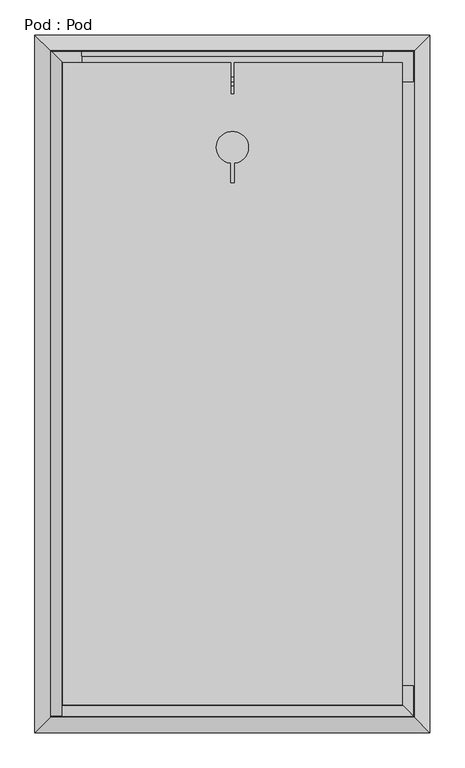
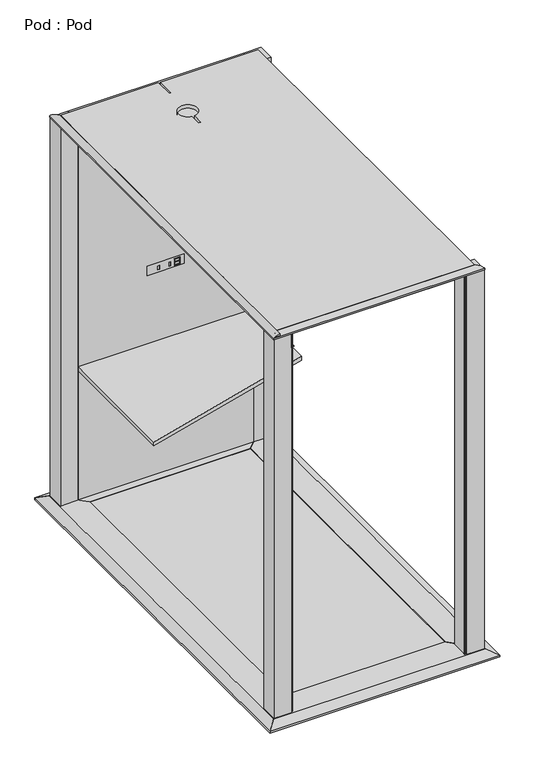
"""IFC4 building model written with IfcOpenShell, lengths in millimetres: furniture geometry, Pod : Pod."""

from ifc_helpers import new_model, si_unit, point, frame, frame_2d, origin, place, context, project, spatial, polyline, circle_curve, ellipse_curve, trimmed, segment, composite_curve, outline, extrude, faceted_brep, source, transform, mapped, element, save
from ifc_brep_helpers import plane_surface, cylinder_surface, advanced_brep


def pod_pod_d2ebc2de(model_context):
    return source(origin(), model_context, "Body", "SolidModel", [
        advanced_brep(
        [(-572.0, 1047.0, 2198.1), (-572.0, 1047.0, 2206.1749639), (-569.5, 1047.0, 2208.1), (-569.5, 1047.0, 2198.1), (-474.5, -1047.0, 2118.1), (-460.3233646, -1047.0, 2121.3729342), (-460.3233646, -1047.0, 2123.3754182), (-472.6956885, -1047.0, 2120.5190421), (-472.6956885, -1047.0, 2199.7084714), (-537.6956885, -1047.0, 2199.7084714), (-537.6956885, -1047.0, 2217.8303043), (-572.0, -1047.0, 2206.1749639), (-572.0, -1047.0, 2198.1), (-474.5, -1047.0, 2198.1), (-474.5, 952.0, 2118.1), (-460.3233646, 937.8233646, 2121.3729342), (-460.3233646, 937.8233646, 2123.3754182), (-472.6956885, 950.1956885, 2120.5190421), (-472.6956885, 950.1956885, 2199.7084714), (-537.6956885, 1015.1956885, 2199.7084714), (-537.6956885, 1015.1956885, 2217.8303043), (-474.5, 952.0, 2198.1)],
        [
            (0, 1),
            (1, 2, circle_curve(frame((-539.3317973, 1047.0, 2166.3353873), z_axis=(0.0, 1.0, 0.0), x_axis=(-1.0, 0.0, 0.0)), 51.5209019)),
            (2, 3),
            (3, 0),
            (4, 5),
            (5, 6),
            (6, 7),
            (7, 8),
            (8, 9),
            (9, 10),
            (10, 11, circle_curve(frame((-539.3317973, -1047.0, 2166.3353873), z_axis=(0.0, -1.0, 0.0), x_axis=(-1.0, 0.0, 0.0)), 51.5209019)),
            (11, 12),
            (12, 13),
            (13, 4),
            (4, 14),
            (14, 15),
            (15, 5),
            (15, 16),
            (16, 6),
            (16, 17),
            (17, 7),
            (17, 18),
            (18, 8),
            (18, 19),
            (19, 9),
            (19, 20),
            (20, 10),
            (20, 2, ellipse_curve(frame((-539.3317973, 1016.8317973, 2166.3353873), z_axis=(-0.7071067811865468, -0.7071067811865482, 0.0), x_axis=(-0.7071067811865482, 0.7071067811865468, 0.0)), 72.8615582, 51.5209019)),
            (1, 11),
            (0, 12),
            (3, 21),
            (21, 13),
            (21, 14),
        ],
        [
            plane_surface(frame((-474.5, 1047.0, 2198.1), z_axis=(0.0, 1.0, 0.0), x_axis=(0.0, 0.0, 1.0))),
            plane_surface(frame((-474.5, -1047.0, 2198.1), z_axis=(0.0, -1.0, 0.0), x_axis=(0.0, 0.0, -1.0))),
            plane_surface(frame((-460.3233646, 1047.0, 2121.3729342), z_axis=(0.22495105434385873, 0.0, -0.9743700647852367), x_axis=(0.0, -1.0, 0.0))),
            plane_surface(frame((-460.3233646, 1047.0, 2123.3754182), z_axis=(1.0, 0.0, 0.0), x_axis=(0.0, -1.0, 0.0))),
            plane_surface(frame((-472.6956885, 1047.0, 2120.5190421), z_axis=(-0.2249510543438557, 0.0, 0.9743700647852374), x_axis=(0.0, -1.0, 0.0))),
            plane_surface(frame((-472.6956885, 1047.0, 2199.7084714), z_axis=(1.0, 0.0, 0.0), x_axis=(0.0, -1.0, 0.0))),
            plane_surface(frame((-537.6956885, 1047.0, 2199.7084714), z_axis=(0.0, 0.0, 1.0), x_axis=(0.0, -1.0, 0.0))),
            plane_surface(frame((-537.6956885, 1047.0, 2217.8303043), z_axis=(1.0, 0.0, 0.0), x_axis=(0.0, -1.0, 0.0))),
            cylinder_surface(frame((-539.3317973, -1047.0, 2166.3353873), z_axis=(0.0, 1.0, 0.0), x_axis=(-1.0, 0.0, 0.0)), 51.5209019),
            plane_surface(frame((-572.0, 1047.0, 2198.1), z_axis=(-1.0, 0.0, 0.0), x_axis=(0.0, -1.0, 0.0))),
            plane_surface(frame((-474.5, 1047.0, 2198.1), z_axis=(0.0, 0.0, -1.0), x_axis=(0.0, -1.0, 0.0))),
            plane_surface(frame((-474.5, 1047.0, 2118.1), z_axis=(-1.0, 0.0, 0.0), x_axis=(0.0, -1.0, 0.0))),
            plane_surface(frame((-622.5, 1100.0, 2508.4304259), z_axis=(0.7071067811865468, 0.7071067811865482, 0.0), x_axis=(0.0, 0.0, -1.0))),
        ],
        [
            (0, [[1, 2, 3, 4]]),
            (1, [[5, 6, 7, 8, 9, 10, 11, 12, 13, 14]]),
            (2, [[-5, 15, 16, 17]]),
            (3, [[-6, -17, 18, 19]]),
            (4, [[-7, -19, 20, 21]]),
            (5, [[-8, -21, 22, 23]]),
            (6, [[-9, -23, 24, 25]]),
            (7, [[-10, -25, 26, 27]]),
            (8, [[-11, -27, 28, -2, 29]]),
            (9, [[-1, 30, -12, -29]]),
            (10, [[-13, -30, -4, 31, 32]]),
            (11, [[-14, -32, 33, -15]]),
            (12, [[-3, -28, -26, -24, -22, -20, -18, -16, -33, -31]]),
        ],
    ),
        extrude(outline(composite_curve([segment(polyline([(-569.5, -952.0), (-464.3524489, -952.0), (-464.3524489, -1039.3403358)]), True, "CONTINUOUS"), segment(trimmed(circle_curve(frame_2d((-467.0121131, -1039.3403358)), 2.6596642), [point((-464.3524489, -1039.3403358))], [point((-467.0121131, -1042.0))], False, "CARTESIAN"), True, "CONTINUOUS"), segment(polyline([(-467.0121131, -1042.0), (-472.0, -1042.0)]), True, "CONTINUOUS"), segment(trimmed(circle_curve(frame_2d((-472.0, -1044.5)), 2.5), [point((-472.0, -1042.0))], [point((-474.5, -1044.5))], True, "CARTESIAN"), True, "CONTINUOUS"), segment(polyline([(-474.5, -1044.5), (-474.5, -1047.0), (-569.5, -1047.0), (-569.5, -952.0)]), True, "CONTINUOUS")], self_intersect=False)), frame((0.0, 0.0, 33.0665228), z_axis=(0.0, 0.0, 1.0), x_axis=(1.0, 0.0, 0.0)), (0.0, 0.0, 1.0), 2165.0334772),
        extrude(outline(polyline([(472.6956885, -937.8233646), (-472.6956885, -937.8233646), (-472.6956885, 912.1918651), (-434.6918651, 912.1918651), (-460.3233646, 937.8233646), (472.6956885, 937.8233646), (472.6956885, -937.8233646)])), frame((0.0, 0.0, 2123.3754182), z_axis=(0.0, 0.0, 1.0), x_axis=(1.0, 0.0, 0.0)), (0.0, 0.0, 1.0), 12.7637513),
        extrude(outline(polyline([(26.6407935, 954.4349239), (16.6407935, 954.4349239), (16.6407935, 961.8081349), (26.6407935, 961.8081349), (26.6407935, 954.4349239)])), frame((0.0, 0.0, 1197.8694415), z_axis=(0.0, 0.0, 1.0), x_axis=(1.0, 0.0, 0.0)), (0.0, 0.0, 1.0), 22.4507355),
        extrude(outline(polyline([(-33.0619869, 954.4349239), (-43.0619869, 954.4349239), (-43.0619869, 961.8081349), (-33.0619869, 961.8081349), (-33.0619869, 954.4349239)])), frame((0.0, 0.0, 1197.8694415), z_axis=(0.0, 0.0, 1.0), x_axis=(1.0, 0.0, 0.0)), (0.0, 0.0, 1.0), 22.4507355),
        extrude(outline(polyline([(1232.507105, 75.4766828), (1232.507105, 45.4766828), (1192.507105, 45.4766828), (1192.507105, 75.4766828), (1232.507105, 75.4766828)]), holes=[polyline([(1211.3878155, 72.7906471), (1196.3878155, 72.7906471), (1196.3878155, 48.3542366), (1211.3878155, 48.3542366), (1211.3878155, 72.7906471)]), polyline([(1214.5141099, 72.7906471), (1214.5141099, 48.3899353), (1229.168615, 48.3899353), (1229.168615, 72.7906471), (1214.5141099, 72.7906471)])]), frame((0.0, 949.5162003, 0.0), z_axis=(0.0, 1.0, 0.0), x_axis=(0.0, 0.0, 1.0)), (0.0, 0.0, 1.0), 2.4837997),
        extrude(outline(polyline([(1239.555297, -100.0), (1185.555297, -100.0), (1185.555297, 100.0), (1239.555297, 100.0), (1239.555297, -100.0)]), holes=[polyline([(1197.8694415, 26.6407935), (1197.8694415, 16.6407935), (1220.320177, 16.6407935), (1220.320177, 26.6407935), (1197.8694415, 26.6407935)]), polyline([(1197.8694415, -33.0619869), (1197.8694415, -43.0619869), (1220.320177, -43.0619869), (1220.320177, -33.0619869), (1197.8694415, -33.0619869)])]), frame((0.0, 952.0, 0.0), z_axis=(0.0, 1.0, 0.0), x_axis=(0.0, 0.0, 1.0)), (0.0, 0.0, 1.0), 15.0),
        extrude(outline(polyline([(2198.1, -474.5), (35.555297, -474.5), (35.555297, 474.5), (2198.1, 474.5), (2198.1, -474.5)]), holes=[polyline([(1185.555297, 100.0), (1185.555297, -100.0), (1239.555297, -100.0), (1239.555297, 100.0), (1185.555297, 100.0)])]), frame((0.0, 952.0, 0.0), z_axis=(0.0, 1.0, 0.0), x_axis=(0.0, 0.0, 1.0)), (0.0, 0.0, 1.0), 15.0),
        extrude(outline(polyline([(474.5, 952.0), (474.5, 502.0), (-474.5, 242.0), (-474.5, 952.0), (0.0, 952.0), (474.5, 952.0)])), frame((0.0, 0.0, 774.2510923), z_axis=(0.0, 0.0, 1.0), x_axis=(1.0, 0.0, 0.0)), (0.0, 0.0, 1.0), 22.342928),
        extrude(outline(composite_curve([segment(polyline([(569.5, -952.0), (569.5, -1047.0), (474.5, -1047.0), (474.5, -1044.5)]), True, "CONTINUOUS"), segment(trimmed(circle_curve(frame_2d((472.0, -1044.5)), 2.5), [point((474.5, -1044.5))], [point((472.0, -1042.0))], True, "CARTESIAN"), True, "CONTINUOUS"), segment(polyline([(472.0, -1042.0), (467.0121131, -1042.0)]), True, "CONTINUOUS"), segment(trimmed(circle_curve(frame_2d((467.0121131, -1039.3403358)), 2.6596642), [point((467.0121131, -1042.0))], [point((464.3524489, -1039.3403358))], False, "CARTESIAN"), True, "CONTINUOUS"), segment(polyline([(464.3524489, -1039.3403358), (464.3524489, -952.0), (569.5, -952.0)]), True, "CONTINUOUS")], self_intersect=False)), frame((0.0, 0.0, 33.0665228), z_axis=(0.0, 0.0, 1.0), x_axis=(1.0, 0.0, 0.0)), (0.0, 0.0, 1.0), 2165.0334772),
        extrude(outline(polyline([(-6.0, 1012.1956885), (-6.0, 912.1956885), (6.0, 912.1956885), (6.0, 1012.1956885), (534.6956885, 1012.1956885), (534.6956885, -1012.1956885), (-534.6956885, -1012.1956885), (-534.6956885, 1012.1956885), (-6.0, 1012.1956885)]), holes=[composite_curve([segment(polyline([(6.0, 634.6930573), (6.0, 694.9938111)]), True, "CONTINUOUS"), segment(trimmed(circle_curve(frame_2d((0.0, 745.227332)), 50.5905784), [point((6.0, 694.9938111))], [point((-6.0, 694.9938111))], True, "CARTESIAN"), True, "CONTINUOUS"), segment(polyline([(-6.0, 694.9938111), (-6.0, 634.6930573), (6.0, 634.6930573)]), True, "CONTINUOUS")], self_intersect=False)]), frame((0.0, 0.0, 2198.1), z_axis=(0.0, 0.0, 1.0), x_axis=(1.0, 0.0, 0.0)), (0.0, 0.0, 1.0), 19.7303043),
        advanced_brep(
        [(569.5, -1049.5, 2206.1749639), (569.5, -1049.5, 2198.1), (569.5, -1047.0, 2198.1), (569.5, -1047.0, 2208.1), (-569.5, -1049.5, 2198.1), (-569.5, -1049.5, 2206.1749639), (-569.5, -1047.0, 2208.1), (-569.5, -1047.0, 2198.1), (-474.5, -952.0, 2118.1), (-460.3233646, -937.8233646, 2121.3729342), (460.3233646, -937.8233646, 2121.3729342), (474.5, -952.0, 2118.1), (-460.3233646, -937.8233646, 2123.3754182), (460.3233646, -937.8233646, 2123.3754182), (-472.6956885, -950.1956885, 2120.5190421), (472.6956885, -950.1956885, 2120.5190421), (-472.6956885, -950.1956885, 2199.7084714), (472.6956885, -950.1956885, 2199.7084714), (-537.6956885, -1015.1956885, 2199.7084714), (537.6956885, -1015.1956885, 2199.7084714), (-537.6956885, -1015.1956885, 2217.8303043), (537.6956885, -1015.1956885, 2217.8303043), (-474.5, -952.0, 2198.1), (474.5, -952.0, 2198.1)],
        [
            (0, 1),
            (1, 2),
            (2, 3),
            (3, 0, circle_curve(frame((569.5, -1016.8317973, 2166.3353873), z_axis=(1.0, 0.0, 0.0), x_axis=(0.0, -1.0, 0.0)), 51.5209019)),
            (4, 5),
            (5, 6, circle_curve(frame((-569.5, -1016.8317973, 2166.3353873), z_axis=(-1.0, 0.0, 0.0), x_axis=(0.0, -1.0, 0.0)), 51.5209019)),
            (6, 7),
            (7, 4),
            (8, 9),
            (9, 10),
            (10, 11),
            (11, 8),
            (9, 12),
            (12, 13),
            (13, 10),
            (12, 14),
            (14, 15),
            (15, 13),
            (14, 16),
            (16, 17),
            (17, 15),
            (16, 18),
            (18, 19),
            (19, 17),
            (18, 20),
            (20, 21),
            (21, 19),
            (5, 0),
            (3, 21, ellipse_curve(frame((539.3317973, -1016.8317973, 2166.3353873), z_axis=(-0.707106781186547, -0.707106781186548, 0.0), x_axis=(0.7071067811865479, -0.707106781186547, 0.0)), 72.8615582, 51.5209019)),
            (20, 6, ellipse_curve(frame((-539.3317973, -1016.8317973, 2166.3353873), z_axis=(0.707106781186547, -0.707106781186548, 0.0), x_axis=(0.707106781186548, 0.707106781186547, 0.0)), 72.8615582, 51.5209019)),
            (4, 1),
            (7, 22),
            (22, 23),
            (23, 2),
            (22, 8),
            (11, 23),
        ],
        [
            plane_surface(frame((569.5, -952.0, 2118.1), z_axis=(1.0, 0.0, 0.0), x_axis=(0.0, 0.9743700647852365, 0.22495105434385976))),
            plane_surface(frame((-569.5, -952.0, 2118.1), z_axis=(-1.0, 0.0, 0.0), x_axis=(0.0, -0.9743700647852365, -0.22495105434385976))),
            plane_surface(frame((569.5, -952.0, 2118.1), z_axis=(0.0, 0.22495105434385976, -0.9743700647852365), x_axis=(-1.0, 0.0, 0.0))),
            plane_surface(frame((569.5, -937.8233646, 2121.3729342), z_axis=(0.0, 1.0, 0.0), x_axis=(-1.0, 0.0, 0.0))),
            plane_surface(frame((569.5, -937.8233646, 2123.3754182), z_axis=(0.0, -0.22495105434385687, 0.9743700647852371), x_axis=(-1.0, 0.0, 0.0))),
            plane_surface(frame((569.5, -950.1956885, 2120.5190421), z_axis=(0.0, 1.0, 0.0), x_axis=(-1.0, 0.0, 0.0))),
            plane_surface(frame((569.5, -950.1956885, 2199.7084714), z_axis=(0.0, 0.0, 1.0), x_axis=(-1.0, 0.0, 0.0))),
            plane_surface(frame((569.5, -1015.1956885, 2199.7084714), z_axis=(0.0, 1.0, 0.0), x_axis=(-1.0, 0.0, 0.0))),
            cylinder_surface(frame((-569.5, -1016.8317973, 2166.3353873), z_axis=(1.0, 0.0, 0.0), x_axis=(0.0, -1.0, 0.0)), 51.5209019),
            plane_surface(frame((569.5, -1049.5, 2206.1749639), z_axis=(0.0, -1.0, 0.0), x_axis=(-1.0, 0.0, 0.0))),
            plane_surface(frame((569.5, -1049.5, 2198.1), z_axis=(0.0, 0.0, -1.0), x_axis=(-1.0, 0.0, 0.0))),
            plane_surface(frame((569.5, -952.0, 2198.1), z_axis=(0.0, -1.0, 0.0), x_axis=(-1.0, 0.0, 0.0))),
            plane_surface(frame((-622.5, -1100.0, 2508.4304259), z_axis=(-0.707106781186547, 0.707106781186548, 0.0), x_axis=(0.0, 0.0, -1.0))),
            plane_surface(frame((434.6918651, -912.1918651, 2536.0547722), z_axis=(0.707106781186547, 0.707106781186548, 0.0), x_axis=(0.0, 0.0, -1.0))),
        ],
        [
            (0, [[1, 2, 3, 4]]),
            (1, [[5, 6, 7, 8]]),
            (2, [[9, 10, 11, 12]]),
            (3, [[13, 14, 15, -10]]),
            (4, [[16, 17, 18, -14]]),
            (5, [[19, 20, 21, -17]]),
            (6, [[22, 23, 24, -20]]),
            (7, [[25, 26, 27, -23]]),
            (8, [[28, -4, 29, -26, 30, -6]]),
            (9, [[-1, -28, -5, 31]]),
            (10, [[-31, -8, 32, 33, 34, -2]]),
            (11, [[35, -12, 36, -33]]),
            (12, [[-7, -30, -25, -22, -19, -16, -13, -9, -35, -32]]),
            (13, [[-3, -34, -36, -11, -15, -18, -21, -24, -27, -29]]),
        ],
    ),
        extrude(outline(polyline([(449.6918651, -927.1918651), (-449.6918651, -927.1918651), (-434.6918651, -912.1918651), (-449.6918651, -912.1918651), (-449.6918651, 912.1918651), (-434.6918651, 912.1918651), (-449.6918651, 927.1918651), (449.6918651, 927.1918651), (449.6918651, -927.1918651)])), frame((0.0, 0.0, 4.4168656), z_axis=(0.0, 0.0, 1.0), x_axis=(1.0, 0.0, 0.0)), (0.0, 0.0, 1.0), 28.6496572),
        extrude(outline(polyline([(-474.5, 1047.0), (474.5, 1047.0), (474.5, 1032.0), (-474.5, 1032.0), (-474.5, 1047.0)])), frame((0.0, 0.0, 35.555297), z_axis=(0.0, 0.0, 1.0), x_axis=(1.0, 0.0, 0.0)), (0.0, 0.0, 1.0), 2162.544703),
        extrude(outline(polyline([(569.5, 952.0), (474.5, 952.0), (474.5, 1047.0), (569.5, 1047.0), (569.5, 952.0)])), frame((0.0, 0.0, 33.0665228), z_axis=(0.0, 0.0, 1.0), x_axis=(1.0, 0.0, 0.0)), (0.0, 0.0, 1.0), 2165.0334772),
        extrude(outline(polyline([(-569.5, 952.0), (-569.5, 1047.0), (-474.5, 1047.0), (-474.5, 952.0), (-569.5, 952.0)])), frame((0.0, 0.0, 33.0665228), z_axis=(0.0, 0.0, 1.0), x_axis=(1.0, 0.0, 0.0)), (0.0, 0.0, 1.0), 2165.0334772),
        faceted_brep([(622.5, 1100.0, 10.0), (-622.5, 1100.0, 10.0), (-574.5487243, 1052.0487243, 33.0665228), (574.5487243, 1052.0487243, 33.0665228), (434.6918651, 912.1918651, 36.5455491), (-434.6918651, 912.1918651, 36.5455491), (434.6918651, 912.1918651, 4.4168656), (-434.6918651, 912.1918651, 4.4168656), (479.6918651, 957.1918651, 4.4168656), (-479.6918651, 957.1918651, 4.4168656), (479.6918651, 957.1918651, 6.4168656), (-479.6918651, 957.1918651, 6.4168656), (574.5, 1052.0, 1.4481818), (-574.5, 1052.0, 1.4481818), (574.5, 1052.0, 0.0), (-574.5, 1052.0, 0.0), (-622.5, 1100.0, 0.0), (622.5, 1100.0, 0.0)], [[[0, 1, 2, 3]], [[4, 3, 2, 5]], [[6, 4, 5, 7]], [[8, 6, 7, 9]], [[10, 8, 9, 11]], [[12, 10, 11, 13]], [[14, 12, 13, 15]], [[16, 17, 14, 15]], [[1, 0, 17, 16]], [[0, 3, 4, 6, 8, 10, 12, 14, 17]], [[2, 1, 16, 15, 13, 11, 9, 7, 5]]]),
        faceted_brep([(622.5, -1100.0, 10.0), (622.5, 1100.0, 10.0), (574.5487243, 1052.0487243, 33.0665228), (574.5487243, -1052.0487243, 33.0665228), (434.6918651, -912.1918651, 36.5455491), (434.6918651, 912.1918651, 36.5455491), (434.6918651, -912.1918651, 4.4168656), (434.6918651, 912.1918651, 4.4168656), (479.6918651, -957.1918651, 4.4168656), (479.6918651, 957.1918651, 4.4168656), (479.6918651, -957.1918651, 6.4168656), (479.6918651, 957.1918651, 6.4168656), (574.5, -1052.0, 1.4481818), (574.5, 1052.0, 1.4481818), (574.5, -1052.0, 0.0), (574.5, 1052.0, 0.0), (622.5, 1100.0, 0.0), (622.5, -1100.0, 0.0)], [[[0, 1, 2, 3]], [[4, 3, 2, 5]], [[6, 4, 5, 7]], [[8, 6, 7, 9]], [[10, 8, 9, 11]], [[12, 10, 11, 13]], [[14, 12, 13, 15]], [[16, 17, 14, 15]], [[1, 0, 17, 16]], [[0, 3, 4, 6, 8, 10, 12, 14, 17]], [[2, 1, 16, 15, 13, 11, 9, 7, 5]]]),
        faceted_brep([(-622.5, 1100.0, 10.0), (-622.5, -1100.0, 10.0), (-574.5487243, -1052.0487243, 33.0665228), (-574.5487243, 1052.0487243, 33.0665228), (-434.6918651, -912.1918651, 36.5455491), (-434.6918651, 912.1918651, 36.5455491), (-434.6918651, -912.1918651, 4.4168656), (-434.6918651, 912.1918651, 4.4168656), (-479.6918651, -957.1918651, 4.4168656), (-479.6918651, 957.1918651, 4.4168656), (-479.6918651, -957.1918651, 6.4168656), (-479.6918651, 957.1918651, 6.4168656), (-574.5, -1052.0, 1.4481818), (-574.5, 1052.0, 1.4481818), (-574.5, -1052.0, 0.0), (-574.5, 1052.0, 0.0), (-622.5, -1100.0, 0.0), (-622.5, 1100.0, 0.0)], [[[0, 1, 2, 3]], [[2, 4, 5, 3]], [[4, 6, 7, 5]], [[6, 8, 9, 7]], [[8, 10, 11, 9]], [[10, 12, 13, 11]], [[12, 14, 15, 13]], [[16, 17, 15, 14]], [[1, 0, 17, 16]], [[2, 1, 16, 14, 12, 10, 8, 6, 4]], [[0, 3, 5, 7, 9, 11, 13, 15, 17]]]),
        faceted_brep([(-622.5, -1100.0, 10.0), (622.5, -1100.0, 10.0), (574.5487243, -1052.0487243, 33.0665228), (-574.5487243, -1052.0487243, 33.0665228), (434.6918651, -912.1918651, 36.5455491), (-434.6918651, -912.1918651, 36.5455491), (434.6918651, -912.1918651, 4.4168656), (-434.6918651, -912.1918651, 4.4168656), (479.6918651, -957.1918651, 4.4168656), (-479.6918651, -957.1918651, 4.4168656), (479.6918651, -957.1918651, 6.4168656), (-479.6918651, -957.1918651, 6.4168656), (574.5, -1052.0, 1.4481818), (-574.5, -1052.0, 1.4481818), (574.5, -1052.0, 0.0), (-574.5, -1052.0, 0.0), (622.5, -1100.0, 0.0), (-622.5, -1100.0, 0.0)], [[[0, 1, 2, 3]], [[2, 4, 5, 3]], [[4, 6, 7, 5]], [[6, 8, 9, 7]], [[8, 10, 11, 9]], [[10, 12, 13, 11]], [[12, 14, 15, 13]], [[16, 17, 15, 14]], [[1, 0, 17, 16]], [[2, 1, 16, 14, 12, 10, 8, 6, 4]], [[0, 3, 5, 7, 9, 11, 13, 15, 17]]]),
    ])


if __name__ == "__main__":
    model = new_model("IFC4")
    model_context = context("Model", 3, world=origin())
    ifc_project = project(units=[si_unit("LENGTHUNIT", "METRE", prefix="MILLI")], contexts=[model_context])
    site = spatial("IfcSite", under=ifc_project)
    building = spatial("IfcBuilding", under=site)
    placement = place(None, origin())
    pod_pod_shape = pod_pod_d2ebc2de(model_context)
    element("IfcFurniture", 1, ObjectType="Pod : Pod", at=placement, inside=building, context=model_context, shape_type="MappedRepresentation", body=[
        mapped(pod_pod_shape, transform((0.0, 0.0, 0.0), x_axis=(1.0, 0.0, 0.0), y_axis=(0.0, 1.0, 0.0), z_axis=(0.0, 0.0, 1.0))),
    ])
    save(model, "model.ifc")
